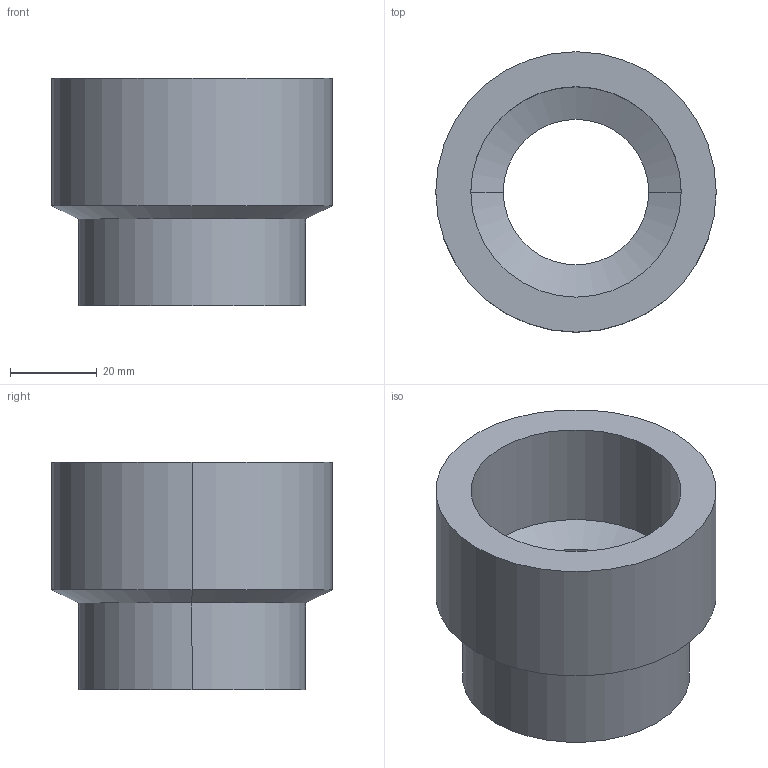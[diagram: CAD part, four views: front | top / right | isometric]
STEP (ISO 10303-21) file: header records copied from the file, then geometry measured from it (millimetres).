
FILE_DESCRIPTION (( 'STEP AP203' ), '1' );
FILE_NAME ('PMR10 FADO.STEP', '2022-08-23T10:35:54', ( '' ), ( '' ), 'SwSTEP 2.0', 'SolidWorks 2021', '' );
FILE_SCHEMA (( 'CONFIG_CONTROL_DESIGN' ));
Length unit declared in the file: millimetre
Products named in the file (1): PMR10 FADO
Bounding box: 64.5 x 64.5 x 52.4 mm (x, y, z)
Volume: 68682 mm3; surface area: 20960.1 mm2
Topology: 1 solids, 1 shells, 17 faces, 34 edges, 20 vertices
Faces by surface type: cylinder 10, cone 4, plane 3
Entity records: 525 total; most frequent: DIRECTION 90, CARTESIAN_POINT 72, ORIENTED_EDGE 68, AXIS2_PLACEMENT_3D 38, EDGE_CURVE 34, EDGE_LOOP 20, CIRCLE 20, VERTEX_POINT 20
